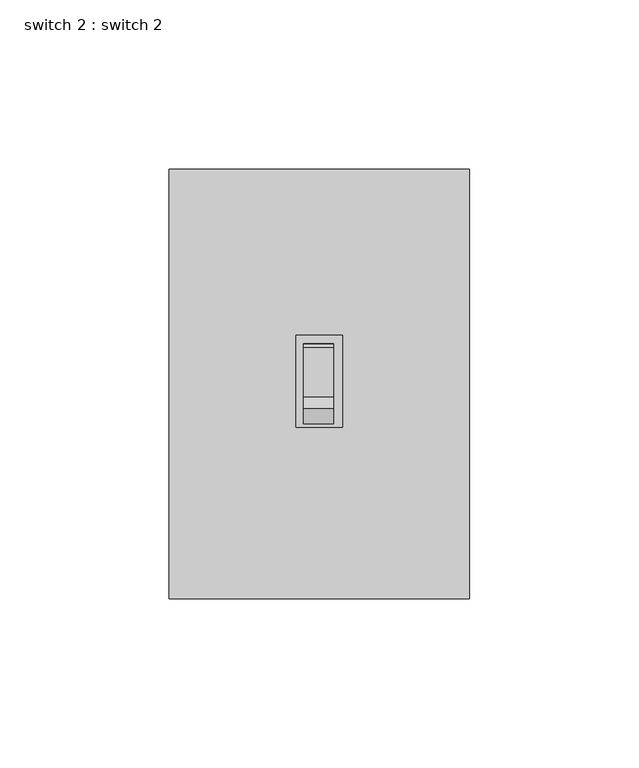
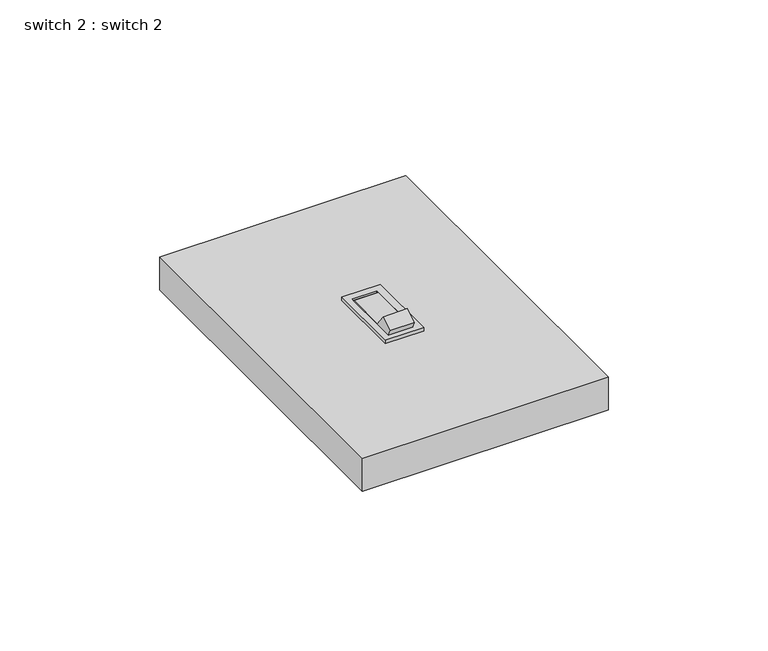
"""IFC4 building model written with IfcOpenShell, lengths in millimetres: proxy geometry, switch 2 : switch 2."""

from ifc_helpers import new_model, si_unit, point, frame, frame_2d, origin, origin_with_axes, place, context, project, spatial, polyline, circle_curve, trimmed, segment, composite_curve, outline, extrude, source, transform, mapped, element, save


def switch_2_switch_2_55747a91(model_context):
    return source(origin(), model_context, "Body", "SweptSolid", [
        extrude(outline(composite_curve([segment(polyline([(51.8099705, 16.109251), (56.1420552, 18.8087554), (59.6016336, 13.9449189), (74.2656365, 13.9449189)]), True, "CONTINUOUS"), segment(trimmed(circle_curve(frame_2d((73.9990352, 12.7841471)), 1.1909943), [point((74.2656365, 13.9449189))], [point((75.1870532, 12.7))], False, "CARTESIAN"), True, "CONTINUOUS"), segment(polyline([(75.1870532, 12.7), (53.3940874, 12.7), (51.8099705, 16.109251)]), True, "CONTINUOUS")], self_intersect=False)), frame((-4.6092812, 0.0, 0.0), z_axis=(1.0, 0.0, 0.0), x_axis=(0.0, 1.0, 0.0)), (0.0, 0.0, 1.0), 8.7587468),
        extrude(outline(polyline([(6.9046769, 77.900072), (6.9046769, 50.6555947), (-6.9046769, 50.6555947), (-6.9046769, 77.900072), (6.9046769, 77.900072)]), holes=[polyline([(4.1494656, 75.3613011), (-4.6092812, 75.3613011), (-4.6092812, 53.3940874), (4.1494656, 53.3940874), (4.1494656, 75.3613011)])]), frame((0.0, 0.0, 12.7), z_axis=(0.0, 0.0, 1.0), x_axis=(1.0, 0.0, 0.0)), (0.0, 0.0, 1.0), 1.2829052),
        extrude(outline(polyline([(-44.45, 0.0), (-44.45, 127.0), (44.45, 127.0), (44.45, 0.0), (-44.45, 0.0)])), origin_with_axes(), (0.0, 0.0, 1.0), 12.7),
    ])


if __name__ == "__main__":
    model = new_model("IFC4")
    model_context = context("Model", 3, world=origin())
    ifc_project = project(units=[si_unit("LENGTHUNIT", "METRE", prefix="MILLI")], contexts=[model_context])
    site = spatial("IfcSite", under=ifc_project)
    building = spatial("IfcBuilding", under=site)
    placement = place(None, origin())
    switch_2_switch_2_shape = switch_2_switch_2_55747a91(model_context)
    element("IfcBuildingElementProxy", 1, Name="switch 2 : switch 2", ObjectType="switch 2 : switch 2", at=placement, inside=building, context=model_context, shape_type="MappedRepresentation", body=[
        mapped(switch_2_switch_2_shape, transform((0.0, 0.0, 0.0), x_axis=(1.0, 0.0, 0.0), y_axis=(0.0, 1.0, 0.0), z_axis=(0.0, 0.0, 1.0))),
    ])
    save(model, "model.ifc")
